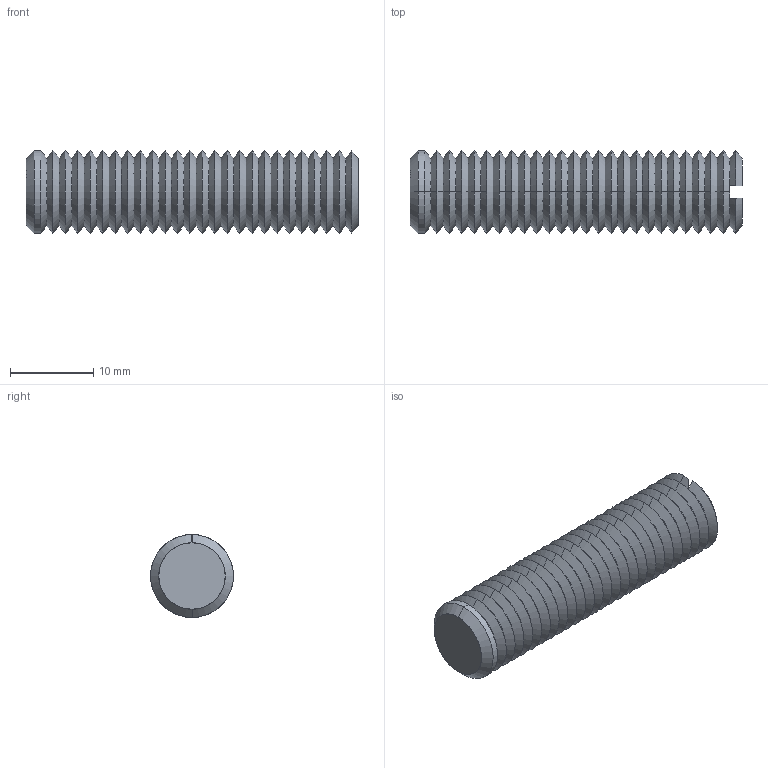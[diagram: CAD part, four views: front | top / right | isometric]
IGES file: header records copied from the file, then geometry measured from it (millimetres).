
Start section: SolidWorks IGES file using analytic representation for surfaces
Global section: file name: C:\Documents and Settings\IANO\Desktop\Temp File\Process pending\EXISTING\34300_v2\34300_v2_20170622_IGES\34300.W0103.igs; native system: SolidWorks 2009; preprocessor: SolidWorks 2009; author: IANO; date: 170622.094007; units: millimetre
Bounding box: 40 x 10 x 10 mm (x, y, z)
Surface area: 1927.8 mm2 (no closed solid volume)
Topology: 0 solids, 0 shells, 112 faces, 512 edges, 512 vertices
Faces by surface type: revolution 106, bspline 6
